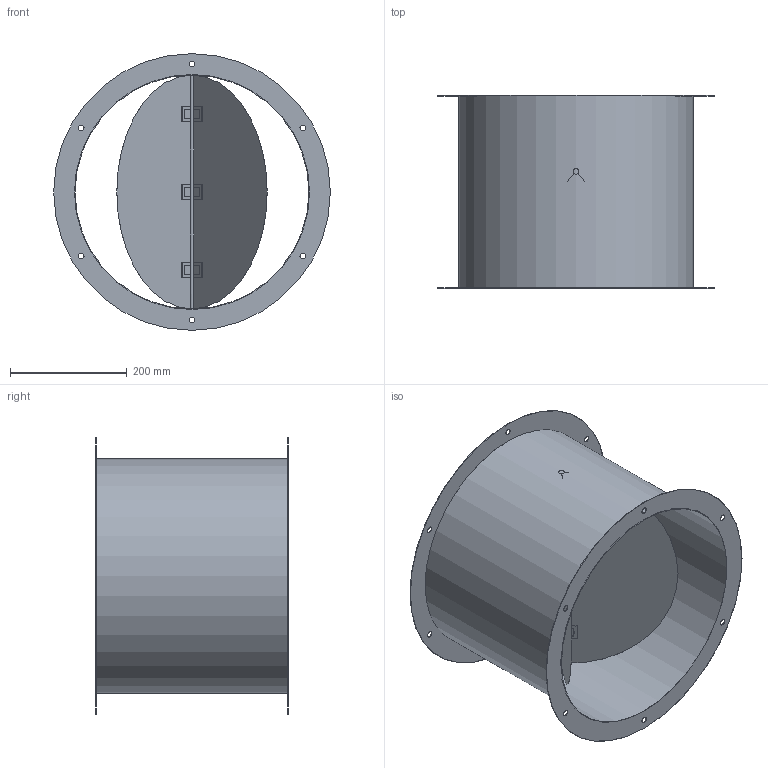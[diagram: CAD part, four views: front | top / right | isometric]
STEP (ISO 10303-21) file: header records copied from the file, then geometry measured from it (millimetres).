
FILE_DESCRIPTION(/* description */ (''),/* implementation_level */ '2;1');
FILE_NAME(/* name */ 'Z:\Output\RVS 400-02596-001.stp',/* time_stamp */ '2017-05-05T17:01:48+02:00',/* author */ ('engineering1'),/* organization */ (''),/* preprocessor_version */ 'ST-DEVELOPER v16.5',/* originating_system */ 'Autodesk Inventor 2017',/* authorisation */ '');
FILE_SCHEMA (('AUTOMOTIVE_DESIGN { 1 0 10303 214 3 1 1 }'));
Length unit declared in the file: millimetre
Products named in the file (1): RVS-1
Bounding box: 473 x 330 x 473 mm (x, y, z)
Volume: 559559.1 mm3; surface area: 1285107.9 mm2
Topology: 1 solids, 1 shells, 123 faces, 359 edges, 242 vertices
Faces by surface type: plane 104, cylinder 19
Full cylindrical faces by diameter (mm): 10 x13, 400 x1, 402 x1, 473 x2
Entity records: 4094 total; most frequent: CARTESIAN_POINT 766, ORIENTED_EDGE 672, DIRECTION 668, EDGE_CURVE 336, LINE 244, VECTOR 244, VERTEX_POINT 236, AXIS2_PLACEMENT_3D 212
